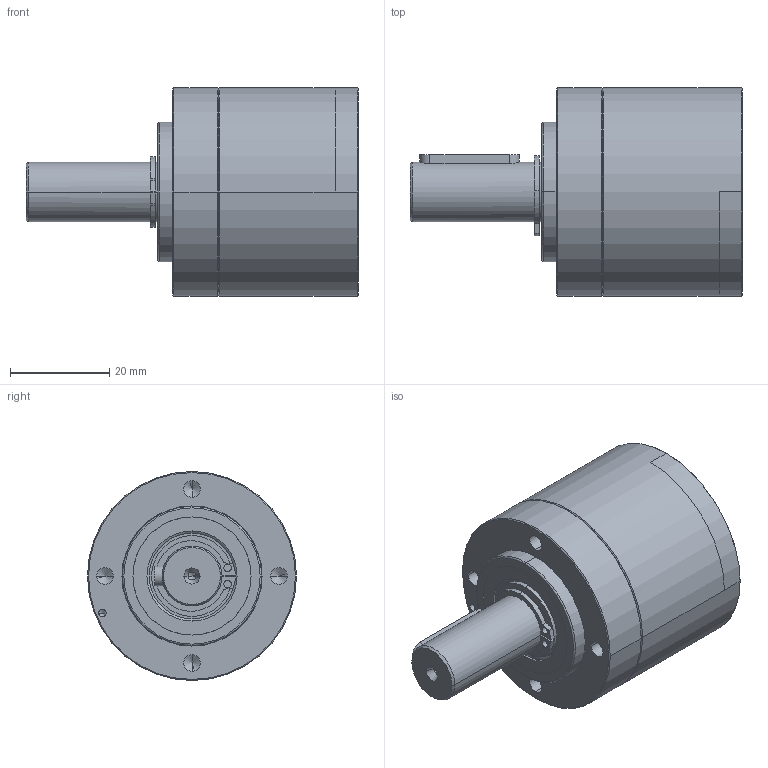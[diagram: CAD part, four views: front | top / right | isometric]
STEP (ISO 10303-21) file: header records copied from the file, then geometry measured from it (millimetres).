
FILE_DESCRIPTION (( 'STEP AP214' ), '1' );
FILE_NAME ('PGx42 - 1 Stage.STEP', '2025-05-12T10:16:51', ( '' ), ( '' ), 'SwSTEP 2.0', 'SolidWorks 2023', '' );
FILE_SCHEMA (( 'AUTOMOTIVE_DESIGN' ));
Length unit declared in the file: millimetre
Products named in the file (1): PGx42 - 1 Stage
Bounding box: 66.75 x 42 x 42 mm (x, y, z)
Volume: 50349 mm3; surface area: 10987.6 mm2
Topology: 2 solids, 2 shells, 113 faces, 268 edges, 159 vertices
Faces by surface type: cylinder 49, cone 35, plane 23, torus 6
Entity records: 3862 total; most frequent: CARTESIAN_POINT 703, DIRECTION 613, ORIENTED_EDGE 512, EDGE_CURVE 256, AXIS2_PLACEMENT_3D 251, VERTEX_POINT 159, CIRCLE 137, EDGE_LOOP 131
